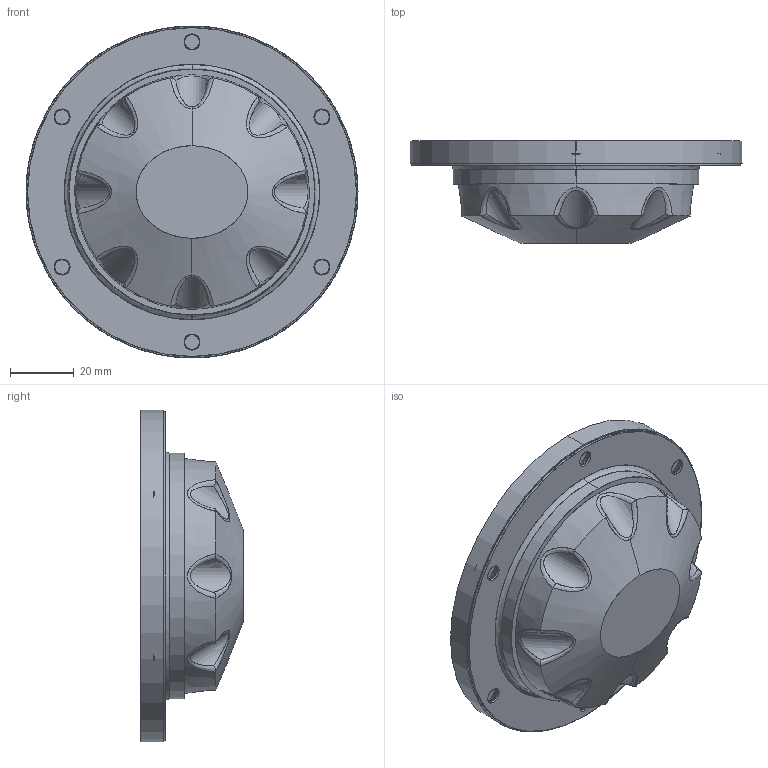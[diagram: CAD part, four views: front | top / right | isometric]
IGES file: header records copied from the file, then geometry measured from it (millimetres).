
Start section: SolidWorks IGES file using analytic representation for surfaces
Global section: file name: W:\TT\D24\WEB D2404_552000\D2404-552000.IGS; native system: SolidWorks 2019; preprocessor: SolidWorks 2019; author: mhn; date: 201215.092544; units: millimetre
Bounding box: 104 x 32 x 104 mm (x, y, z)
Surface area: 24817.5 mm2 (no closed solid volume)
Topology: 0 solids, 0 shells, 125 faces, 2438 edges, 2437 vertices
Faces by surface type: revolution 76, bspline 49
